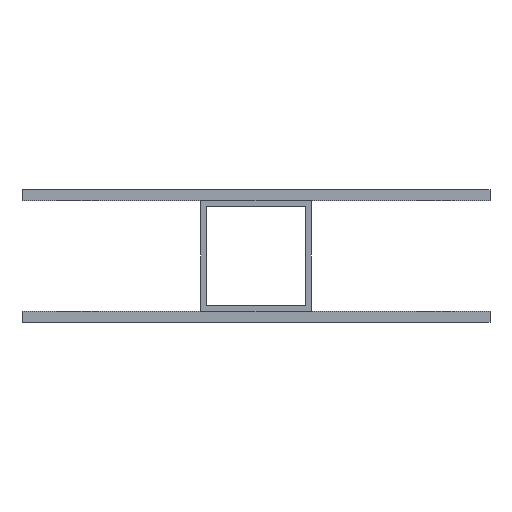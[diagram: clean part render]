
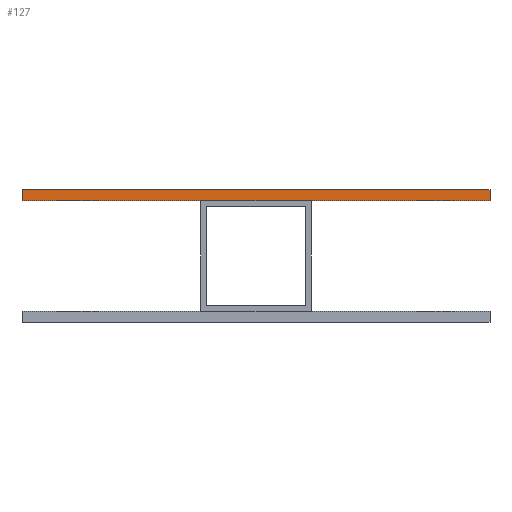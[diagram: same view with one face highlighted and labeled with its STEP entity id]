
A CAD part, left-side view. The second image highlights one B-rep face of the part: STEP entity #127.
In plain terms, the highlighted planar face has unit normal (-1, 0, 0).
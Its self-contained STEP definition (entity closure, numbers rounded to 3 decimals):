
#99=FACE_OUTER_BOUND('',#261,.T.);
#127=ADVANCED_FACE('',(#99),#157,.F.);
#157=PLANE('',#742);
#261=EDGE_LOOP('',(#380,#381,#382,#383));
#380=ORIENTED_EDGE('',*,*,#560,.T.);
#381=ORIENTED_EDGE('',*,*,#547,.F.);
#382=ORIENTED_EDGE('',*,*,#561,.F.);
#383=ORIENTED_EDGE('',*,*,#558,.T.);
#476=VERTEX_POINT('',#1021);
#479=VERTEX_POINT('',#1026);
#486=VERTEX_POINT('',#1048);
#487=VERTEX_POINT('',#1050);
#547=EDGE_CURVE('',#479,#476,#615,.T.);
#558=EDGE_CURVE('',#487,#486,#626,.T.);
#560=EDGE_CURVE('',#486,#476,#628,.T.);
#561=EDGE_CURVE('',#487,#479,#629,.T.);
#615=LINE('',#1027,#675);
#626=LINE('',#1049,#686);
#628=LINE('',#1053,#688);
#629=LINE('',#1054,#689);
#675=VECTOR('',#850,1.);
#686=VECTOR('',#869,1.);
#688=VECTOR('',#873,1.);
#689=VECTOR('',#874,1.);
#742=AXIS2_PLACEMENT_3D('',#1055,#875,#876);
#850=DIRECTION('',(0.,0.,-1.));
#869=DIRECTION('',(0.,0.,-1.));
#873=DIRECTION('',(0.,-1.,0.));
#874=DIRECTION('',(0.,-1.,0.));
#875=DIRECTION('',(1.,0.,0.));
#876=DIRECTION('',(0.,1.,0.));
#1021=CARTESIAN_POINT('',(-1767.902,-63.596,0.));
#1026=CARTESIAN_POINT('',(-1767.902,-63.596,3.));
#1027=CARTESIAN_POINT('',(-1767.902,-63.596,3.));
#1048=CARTESIAN_POINT('',(-1767.902,63.596,0.));
#1049=CARTESIAN_POINT('',(-1767.902,63.596,3.));
#1050=CARTESIAN_POINT('',(-1767.902,63.596,3.));
#1053=CARTESIAN_POINT('',(-1767.902,63.596,0.));
#1054=CARTESIAN_POINT('',(-1767.902,0.,3.));
#1055=CARTESIAN_POINT('',(-1767.902,63.596,3.));
